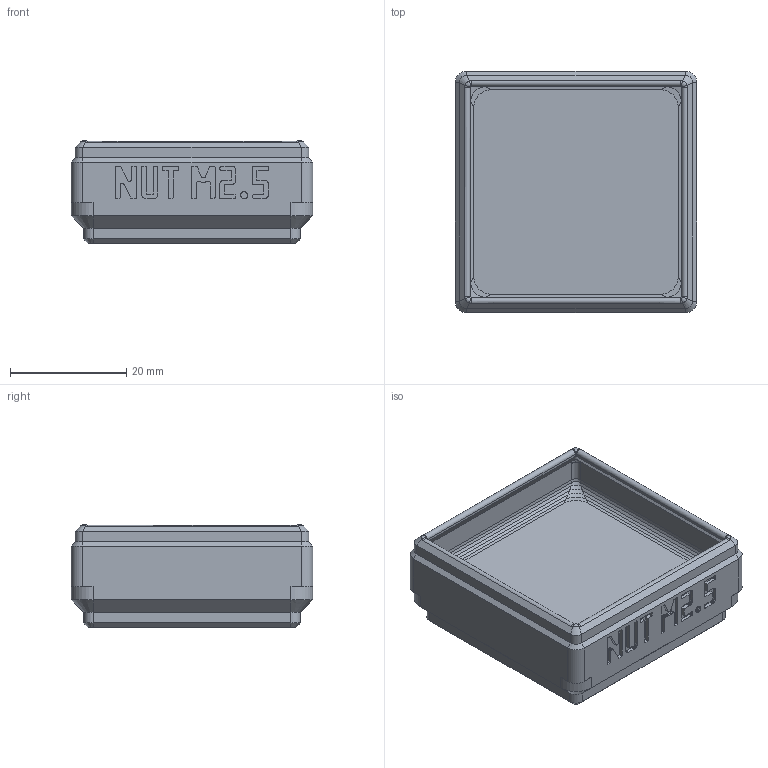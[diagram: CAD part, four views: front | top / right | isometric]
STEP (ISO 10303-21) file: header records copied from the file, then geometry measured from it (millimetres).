
FILE_DESCRIPTION(('Open CASCADE Model'),'2;1');
FILE_NAME('Open CASCADE Shape Model','2026-11-03T14:04:36',('Author'),( 'Open CASCADE'),'Open CASCADE STEP processor 8.0','build123d', 'Unknown');
FILE_SCHEMA(('AUTOMOTIVE_DESIGN { 1 0 10303 214 1 1 1 1 }'));
Products named in the file (1): SOLID
Bounding box: 41.5 x 41.5 x 17.7 mm (x, y, z)
Volume: 11831.9 mm3; surface area: 10768.9 mm2
Topology: 1 solids, 2 shells, 793 faces, 2207 edges, 1426 vertices
Faces by surface type: plane 657, bspline 92, cylinder 32, cone 12
Entity records: 57216 total; most frequent: CARTESIAN_POINT 13913, DIRECTION 7629, LINE 6025, VECTOR 6025, ORIENTED_EDGE 4414, PCURVE 4414, DEFINITIONAL_REPRESENTATION 4414, EDGE_CURVE 2207
